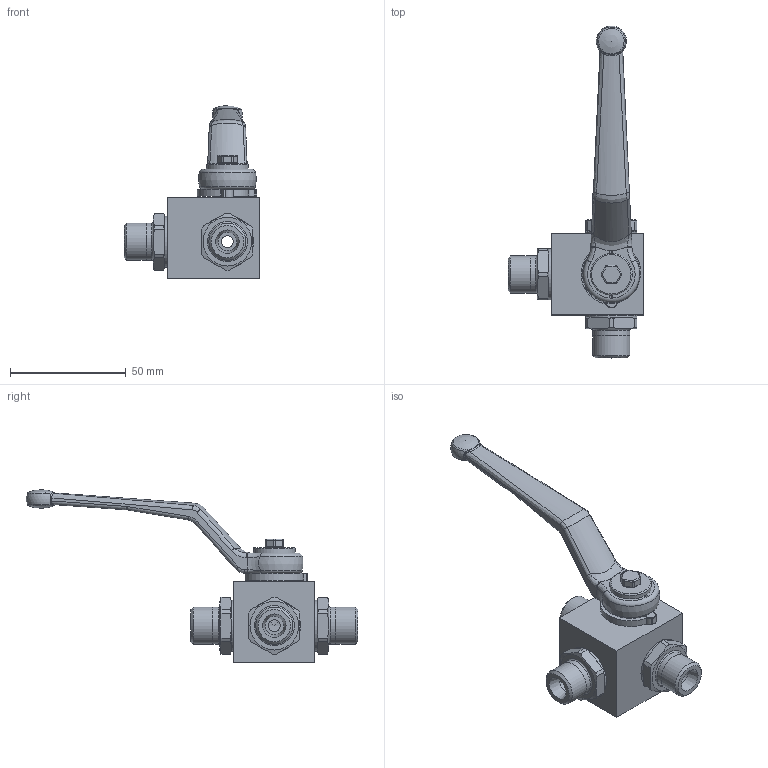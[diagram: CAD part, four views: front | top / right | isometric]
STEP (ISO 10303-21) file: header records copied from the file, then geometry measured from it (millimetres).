
FILE_DESCRIPTION( ( 'Unknown' ), '1' );
FILE_NAME( 'H:/PISTER/3D-MODELLE/BK3-Edelstahl stp/BK3-Edelst DN4 8S.stp', 'Unknown', ( 'Unknown' ), ( 'Unknown' ), 'PSStep 14.0', 'Unknown', ' ' );
FILE_SCHEMA( ( 'AUTOMOTIVE_DESIGN { 1 0 10303 214 1 1 1 1 }' ) );
Length unit declared in the file: millimetre
Products named in the file (11): Assem1; 56-032-337-oa5; 09-09-003; 58-28740-16-oa6; 58-0440-009; 04-004-016-oa7; 04-004-016-oa8; 04-004-016-oa9; 06-008-007-oa11; Griff_SW9; 01-008-020-oa12
Assembly tree (10 placements, depth 2):
  Assem1
    56-032-337-oa5
    09-09-003
    58-28740-16-oa6
    58-0440-009
    04-004-016-oa7
    04-004-016-oa8
    04-004-016-oa9
    06-008-007-oa11
    Griff_SW9
    01-008-020-oa12
Bounding box: 58.5 x 143 x 74.4 mm (x, y, z)
Volume: 59688.5 mm3; surface area: 26429.9 mm2
Topology: 10 solids, 10 shells, 371 faces, 916 edges, 574 vertices
Faces by surface type: cylinder 128, plane 123, cone 43, torus 37, bspline 36, sphere 4
Full cylindrical faces by diameter (mm): 4.134 x1, 4.98 x1, 5 x4, 5.8 x1, 7 x1, 8 x3, 14 x2, 16 x6, 17.1 x1, 18 x1, 18.376 x1, 18.5 x1, 20 x1, 20.3 x1, 21 x4, 22 x3, 22.5 x3
Entity records: 14740 total; most frequent: CARTESIAN_POINT 4040, DIRECTION 1683, ORIENTED_EDGE 1608, EDGE_CURVE 804, AXIS2_PLACEMENT_3D 694, VERTEX_POINT 536, EDGE_LOOP 472, FACE_OUTER_BOUND 419
